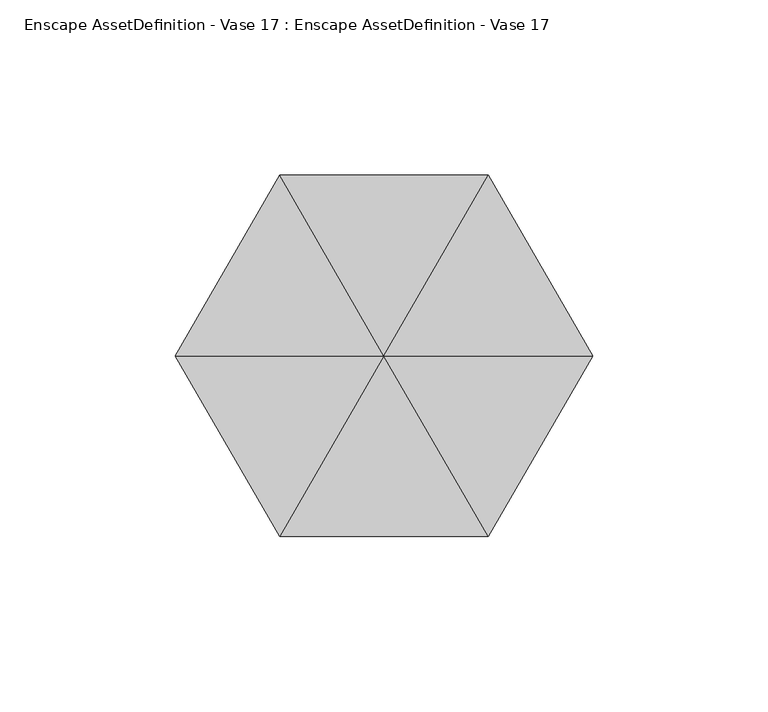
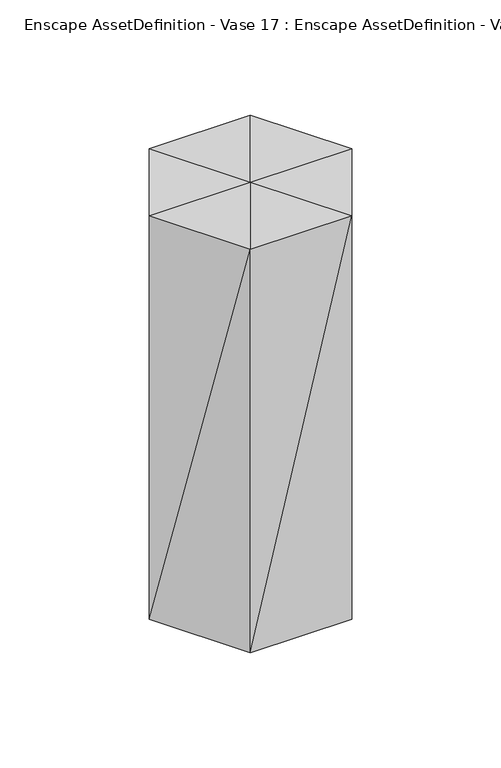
"""IFC4 building model written with IfcOpenShell, lengths in millimetres: geographic element geometry, Enscape AssetDefinition - Vase 17 : Enscape AssetDefinition - Vase 17."""

from ifc_helpers import new_model, si_unit, origin, place, context, project, spatial, faceted_brep, source, transform, mapped, element, save


def enscape_assetdefinition_vase_17_enscape_assetdefinition_vase_ec346c42(model_context):
    return source(origin(), model_context, "Body", "Brep", [
        faceted_brep([(59.4089366, 0.0, 250.0), (59.4089366, 0.0, 0.0), (29.7044665, 51.449649, 250.0), (-1.2e-06, -2e-07, 0.0), (29.7044665, 51.449649, 0.0), (29.7044609, -51.449649, 0.0), (-29.7044702, 51.449649, 250.0), (-1.5e-06, -2e-07, 250.0), (29.7044609, -51.449649, 250.0), (-29.7044609, -51.449649, 0.0), (-29.7044702, 51.449649, 0.0), (-59.4089366, -5.2e-06, 0.0), (-59.4089366, -5.2e-06, 250.0), (-29.7044609, -51.449649, 250.0)], [[[0, 1, 2]], [[3, 4, 1]], [[3, 1, 5]], [[2, 1, 4]], [[0, 5, 1]], [[2, 4, 6]], [[7, 0, 2]], [[7, 2, 6]], [[8, 5, 0]], [[7, 8, 0]], [[3, 5, 9]], [[8, 9, 5]], [[3, 10, 4]], [[3, 11, 10]], [[3, 9, 11]], [[6, 4, 10]], [[6, 10, 12]], [[7, 6, 12]], [[7, 12, 13]], [[7, 13, 8]], [[13, 9, 8]], [[13, 11, 9]], [[12, 11, 13]], [[12, 10, 11]]]),
    ])


if __name__ == "__main__":
    model = new_model("IFC4")
    model_context = context("Model", 3, world=origin())
    ifc_project = project(units=[si_unit("LENGTHUNIT", "METRE", prefix="MILLI")], contexts=[model_context])
    site = spatial("IfcSite", under=ifc_project)
    building = spatial("IfcBuilding", under=site)
    placement = place(None, origin())
    enscape_assetdefinition_vase_17_enscape_assetdefinition_vase_shape = enscape_assetdefinition_vase_17_enscape_assetdefinition_vase_ec346c42(model_context)
    element("IfcGeographicElement", 1, ObjectType="Enscape AssetDefinition - Vase 17 : Enscape AssetDefinition - Vase 17", at=placement, inside=building, context=model_context, shape_type="MappedRepresentation", body=[
        mapped(enscape_assetdefinition_vase_17_enscape_assetdefinition_vase_shape, transform((0.0, 0.0, 0.0), x_axis=(1.0, 0.0, 0.0), y_axis=(0.0, 1.0, 0.0), z_axis=(0.0, 0.0, 1.0))),
    ])
    save(model, "model.ifc")
